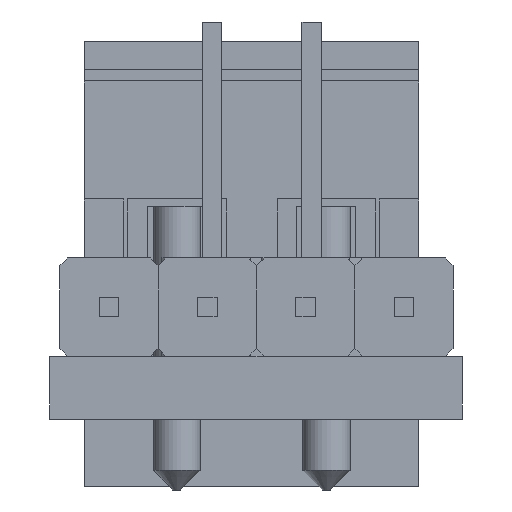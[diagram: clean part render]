
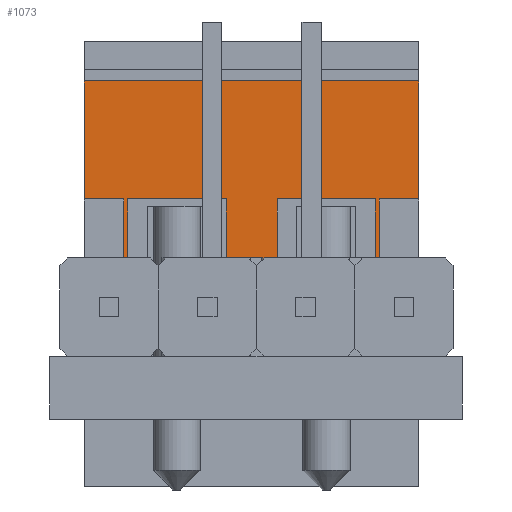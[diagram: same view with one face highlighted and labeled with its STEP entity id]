
A CAD part, left-side view. The second image highlights one B-rep face of the part: STEP entity #1073.
In plain terms, the highlighted planar face has unit normal (-1, 0, 0) as drawn and (1, 0, 0) by its records, which use the part's own axes.
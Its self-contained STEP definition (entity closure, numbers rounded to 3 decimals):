
#1073=ADVANCED_FACE('',(#1763),#1454,.F.);
#1454=PLANE('',#7526);
#1763=FACE_OUTER_BOUND('',#2147,.T.);
#2147=EDGE_LOOP('',(#3283,#3284,#3285,#3286,#3287,#3288,#3289,#3290,#3291,
#3292,#3293,#3294,#3295,#3296,#3297,#3298,#3299,#3300,#3301,#3302));
#3283=ORIENTED_EDGE('',*,*,#5328,.F.);
#3284=ORIENTED_EDGE('',*,*,#5338,.T.);
#3285=ORIENTED_EDGE('',*,*,#5339,.T.);
#3286=ORIENTED_EDGE('',*,*,#5340,.T.);
#3287=ORIENTED_EDGE('',*,*,#5320,.F.);
#3288=ORIENTED_EDGE('',*,*,#5341,.T.);
#3289=ORIENTED_EDGE('',*,*,#5342,.T.);
#3290=ORIENTED_EDGE('',*,*,#5343,.T.);
#3291=ORIENTED_EDGE('',*,*,#5344,.T.);
#3292=ORIENTED_EDGE('',*,*,#5345,.T.);
#3293=ORIENTED_EDGE('',*,*,#5312,.T.);
#3294=ORIENTED_EDGE('',*,*,#5346,.F.);
#3295=ORIENTED_EDGE('',*,*,#5347,.F.);
#3296=ORIENTED_EDGE('',*,*,#5348,.F.);
#3297=ORIENTED_EDGE('',*,*,#5349,.F.);
#3298=ORIENTED_EDGE('',*,*,#5350,.F.);
#3299=ORIENTED_EDGE('',*,*,#5317,.F.);
#3300=ORIENTED_EDGE('',*,*,#5351,.T.);
#3301=ORIENTED_EDGE('',*,*,#5352,.T.);
#3302=ORIENTED_EDGE('',*,*,#5353,.T.);
#4552=VERTEX_POINT('',#10238);
#4554=VERTEX_POINT('',#10242);
#4559=VERTEX_POINT('',#10253);
#4560=VERTEX_POINT('',#10255);
#4561=VERTEX_POINT('',#10258);
#4562=VERTEX_POINT('',#10260);
#4569=VERTEX_POINT('',#10274);
#4570=VERTEX_POINT('',#10276);
#4577=VERTEX_POINT('',#10295);
#4578=VERTEX_POINT('',#10297);
#4579=VERTEX_POINT('',#10300);
#4580=VERTEX_POINT('',#10302);
#4581=VERTEX_POINT('',#10304);
#4582=VERTEX_POINT('',#10306);
#4583=VERTEX_POINT('',#10309);
#4584=VERTEX_POINT('',#10311);
#4585=VERTEX_POINT('',#10313);
#4586=VERTEX_POINT('',#10315);
#4587=VERTEX_POINT('',#10318);
#4588=VERTEX_POINT('',#10320);
#5312=EDGE_CURVE('',#4552,#4554,#6212,.T.);
#5317=EDGE_CURVE('',#4559,#4560,#6217,.T.);
#5320=EDGE_CURVE('',#4561,#4562,#6220,.T.);
#5328=EDGE_CURVE('',#4569,#4570,#6228,.T.);
#5338=EDGE_CURVE('',#4569,#4577,#6238,.T.);
#5339=EDGE_CURVE('',#4577,#4578,#6239,.T.);
#5340=EDGE_CURVE('',#4578,#4562,#6240,.T.);
#5341=EDGE_CURVE('',#4561,#4579,#6241,.T.);
#5342=EDGE_CURVE('',#4579,#4580,#6242,.T.);
#5343=EDGE_CURVE('',#4580,#4581,#6243,.T.);
#5344=EDGE_CURVE('',#4581,#4582,#6244,.T.);
#5345=EDGE_CURVE('',#4582,#4552,#6245,.T.);
#5346=EDGE_CURVE('',#4583,#4554,#6246,.T.);
#5347=EDGE_CURVE('',#4584,#4583,#6247,.T.);
#5348=EDGE_CURVE('',#4585,#4584,#6248,.T.);
#5349=EDGE_CURVE('',#4586,#4585,#6249,.T.);
#5350=EDGE_CURVE('',#4560,#4586,#6250,.T.);
#5351=EDGE_CURVE('',#4559,#4587,#6251,.T.);
#5352=EDGE_CURVE('',#4587,#4588,#6252,.T.);
#5353=EDGE_CURVE('',#4588,#4570,#6253,.T.);
#6212=LINE('',#10243,#6986);
#6217=LINE('',#10254,#6991);
#6220=LINE('',#10259,#6994);
#6228=LINE('',#10275,#7002);
#6238=LINE('',#10294,#7012);
#6239=LINE('',#10296,#7013);
#6240=LINE('',#10298,#7014);
#6241=LINE('',#10299,#7015);
#6242=LINE('',#10301,#7016);
#6243=LINE('',#10303,#7017);
#6244=LINE('',#10305,#7018);
#6245=LINE('',#10307,#7019);
#6246=LINE('',#10308,#7020);
#6247=LINE('',#10310,#7021);
#6248=LINE('',#10312,#7022);
#6249=LINE('',#10314,#7023);
#6250=LINE('',#10316,#7024);
#6251=LINE('',#10317,#7025);
#6252=LINE('',#10319,#7026);
#6253=LINE('',#10321,#7027);
#6986=VECTOR('',#8543,1.);
#6991=VECTOR('',#8550,1.);
#6994=VECTOR('',#8553,1.);
#7002=VECTOR('',#8561,1.);
#7012=VECTOR('',#8575,1.);
#7013=VECTOR('',#8576,1.);
#7014=VECTOR('',#8577,1.);
#7015=VECTOR('',#8578,1.);
#7016=VECTOR('',#8579,1.);
#7017=VECTOR('',#8580,1.);
#7018=VECTOR('',#8581,1.);
#7019=VECTOR('',#8582,1.);
#7020=VECTOR('',#8583,1.);
#7021=VECTOR('',#8584,1.);
#7022=VECTOR('',#8585,1.);
#7023=VECTOR('',#8586,1.);
#7024=VECTOR('',#8587,1.);
#7025=VECTOR('',#8588,1.);
#7026=VECTOR('',#8589,1.);
#7027=VECTOR('',#8590,1.);
#7526=AXIS2_PLACEMENT_3D('',#10322,#8591,#8592);
#8543=DIRECTION('',(0.,1.,0.));
#8550=DIRECTION('',(0.,1.,0.));
#8553=DIRECTION('',(0.,1.,0.));
#8561=DIRECTION('',(0.,1.,0.));
#8575=DIRECTION('',(0.,0.,-1.));
#8576=DIRECTION('',(0.,-1.,0.));
#8577=DIRECTION('',(0.,0.,1.));
#8578=DIRECTION('',(0.,0.,-1.));
#8579=DIRECTION('',(0.,1.,0.));
#8580=DIRECTION('',(0.,0.,-1.));
#8581=DIRECTION('',(0.,-1.,0.));
#8582=DIRECTION('',(0.,0.,-1.));
#8583=DIRECTION('',(0.,0.,-1.));
#8584=DIRECTION('',(0.,1.,0.));
#8585=DIRECTION('',(0.,0.,-1.));
#8586=DIRECTION('',(0.,-1.,0.));
#8587=DIRECTION('',(0.,0.,-1.));
#8588=DIRECTION('',(0.,0.,-1.));
#8589=DIRECTION('',(0.,-1.,0.));
#8590=DIRECTION('',(0.,0.,1.));
#8591=DIRECTION('',(-1.,0.,0.));
#8592=DIRECTION('',(0.,0.,1.));
#10238=CARTESIAN_POINT('',(4.5,-4.25,0.));
#10242=CARTESIAN_POINT('',(4.5,4.25,0.));
#10243=CARTESIAN_POINT('',(4.5,-4.25,0.));
#10253=CARTESIAN_POINT('',(4.5,3.15,7.));
#10254=CARTESIAN_POINT('',(4.5,-4.25,7.));
#10255=CARTESIAN_POINT('',(4.5,4.25,7.));
#10258=CARTESIAN_POINT('',(4.5,-4.25,7.));
#10259=CARTESIAN_POINT('',(4.5,-4.25,7.));
#10260=CARTESIAN_POINT('',(4.5,-3.15,7.));
#10274=CARTESIAN_POINT('',(4.5,-0.65,7.));
#10275=CARTESIAN_POINT('',(4.5,-4.25,7.));
#10276=CARTESIAN_POINT('',(4.5,0.65,7.));
#10294=CARTESIAN_POINT('',(4.5,-0.65,7.));
#10295=CARTESIAN_POINT('',(4.5,-0.65,3.));
#10296=CARTESIAN_POINT('',(4.5,-0.65,3.));
#10297=CARTESIAN_POINT('',(4.5,-3.15,3.));
#10298=CARTESIAN_POINT('',(4.5,-3.15,3.));
#10299=CARTESIAN_POINT('',(4.5,-4.25,7.));
#10300=CARTESIAN_POINT('',(4.5,-4.25,4.5));
#10301=CARTESIAN_POINT('',(4.5,-4.25,4.5));
#10302=CARTESIAN_POINT('',(4.5,-3.25,4.5));
#10303=CARTESIAN_POINT('',(4.5,-3.25,4.5));
#10304=CARTESIAN_POINT('',(4.5,-3.25,3.));
#10305=CARTESIAN_POINT('',(4.5,-3.25,3.));
#10306=CARTESIAN_POINT('',(4.5,-4.25,3.));
#10307=CARTESIAN_POINT('',(4.5,-4.25,7.));
#10308=CARTESIAN_POINT('',(4.5,4.25,7.));
#10309=CARTESIAN_POINT('',(4.5,4.25,3.));
#10310=CARTESIAN_POINT('',(4.5,3.25,3.));
#10311=CARTESIAN_POINT('',(4.5,3.25,3.));
#10312=CARTESIAN_POINT('',(4.5,3.25,4.5));
#10313=CARTESIAN_POINT('',(4.5,3.25,4.5));
#10314=CARTESIAN_POINT('',(4.5,4.25,4.5));
#10315=CARTESIAN_POINT('',(4.5,4.25,4.5));
#10316=CARTESIAN_POINT('',(4.5,4.25,7.));
#10317=CARTESIAN_POINT('',(4.5,3.15,7.));
#10318=CARTESIAN_POINT('',(4.5,3.15,3.));
#10319=CARTESIAN_POINT('',(4.5,3.15,3.));
#10320=CARTESIAN_POINT('',(4.5,0.65,3.));
#10321=CARTESIAN_POINT('',(4.5,0.65,3.));
#10322=CARTESIAN_POINT('',(4.5,-4.25,7.));
